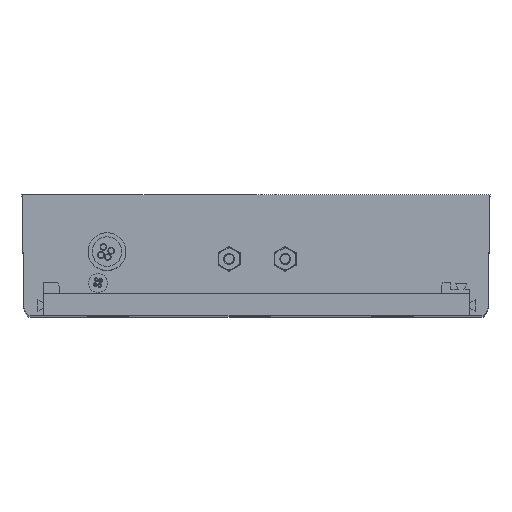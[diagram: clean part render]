
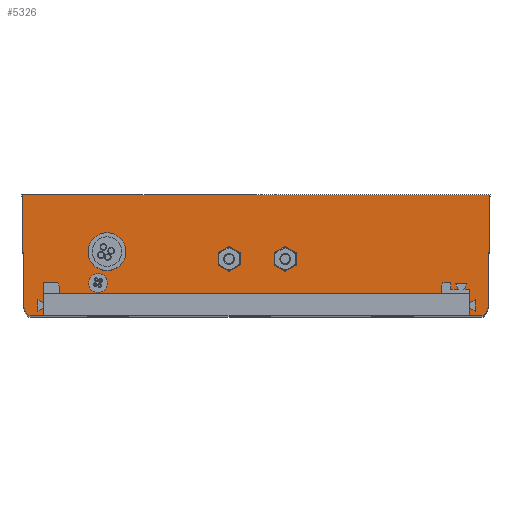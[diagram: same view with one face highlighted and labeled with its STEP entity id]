
A CAD part, top view. The second image highlights one B-rep face of the part: STEP entity #5326.
In plain terms, the highlighted planar face has unit normal (0, 0, 1).
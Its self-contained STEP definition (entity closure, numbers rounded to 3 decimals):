
#283 = ORIENTED_EDGE ( 'NONE', *, *, #11728, .F. ) ;
#535 = CARTESIAN_POINT ( 'NONE',  ( 98.608, -1.721, 0. ) ) ;
#923 = DIRECTION ( 'NONE',  ( 0., 0., 1. ) ) ;
#926 = CARTESIAN_POINT ( 'NONE',  ( -20.425, -14.637, 0. ) ) ;
#1029 = VERTEX_POINT ( 'NONE', #926 ) ;
#1085 = VERTEX_POINT ( 'NONE', #8890 ) ;
#1108 = DIRECTION ( 'NONE',  ( -0.017, 1., 0. ) ) ;
#1127 = EDGE_LOOP ( 'NONE', ( #1537, #11254 ) ) ;
#1208 = CARTESIAN_POINT ( 'NONE',  ( 93.475, -15.137, 0. ) ) ;
#1259 = CARTESIAN_POINT ( 'NONE',  ( 41.225, 0.563, 0. ) ) ;
#1301 = VECTOR ( 'NONE', #1108, 1000. ) ;
#1309 = EDGE_CURVE ( 'NONE', #4970, #5088, #7175, .T. ) ;
#1357 = DIRECTION ( 'NONE',  ( 1., 0., 0. ) ) ;
#1408 = DIRECTION ( 'NONE',  ( 0., -1., 0. ) ) ;
#1456 = CARTESIAN_POINT ( 'NONE',  ( -20.425, -15.137, 0. ) ) ;
#1537 = ORIENTED_EDGE ( 'NONE', *, *, #9037, .F. ) ;
#1540 = AXIS2_PLACEMENT_3D ( 'NONE', #4208, #4023, #13872 ) ;
#1547 = EDGE_CURVE ( 'NONE', #7200, #1085, #3752, .T. ) ;
#1784 = CARTESIAN_POINT ( 'NONE',  ( 44.175, 0.563, 0. ) ) ;
#1805 = EDGE_CURVE ( 'NONE', #7238, #11914, #8384, .T. ) ;
#1838 = VERTEX_POINT ( 'NONE', #4761 ) ;
#1993 = EDGE_LOOP ( 'NONE', ( #3302, #7373 ) ) ;
#2025 = EDGE_CURVE ( 'NONE', #5088, #7238, #3392, .T. ) ;
#2044 = CARTESIAN_POINT ( 'NONE',  ( -24.335, -14.637, 0. ) ) ;
#2080 = ORIENTED_EDGE ( 'NONE', *, *, #1309, .T. ) ;
#2113 = VECTOR ( 'NONE', #1357, 1000. ) ;
#2239 = CIRCLE ( 'NONE', #1540, 3. ) ;
#2701 = DIRECTION ( 'NONE',  ( 1., 0., 0. ) ) ;
#2742 = DIRECTION ( 'NONE',  ( 0., 0., 1. ) ) ;
#2848 = ORIENTED_EDGE ( 'NONE', *, *, #6899, .T. ) ;
#3203 = DIRECTION ( 'NONE',  ( 0., 0., 1. ) ) ;
#3254 = CARTESIAN_POINT ( 'NONE',  ( 26.225, 0.563, 0. ) ) ;
#3302 = ORIENTED_EDGE ( 'NONE', *, *, #5643, .F. ) ;
#3369 = ORIENTED_EDGE ( 'NONE', *, *, #7343, .F. ) ;
#3392 = LINE ( 'NONE', #535, #10779 ) ;
#3439 = EDGE_CURVE ( 'NONE', #1838, #4970, #12124, .T. ) ;
#3484 = CIRCLE ( 'NONE', #14180, 2.95 ) ;
#3542 = DIRECTION ( 'NONE',  ( 0., 0., 1. ) ) ;
#3614 = ORIENTED_EDGE ( 'NONE', *, *, #3439, .T. ) ;
#3629 = CARTESIAN_POINT ( 'NONE',  ( 0., -14.637, 0. ) ) ;
#3695 = CARTESIAN_POINT ( 'NONE',  ( -25.676, -12.19, 0. ) ) ;
#3752 = CIRCLE ( 'NONE', #8056, 2.95 ) ;
#4023 = DIRECTION ( 'NONE',  ( 0., 0., 1. ) ) ;
#4125 = CIRCLE ( 'NONE', #7939, 2.95 ) ;
#4208 = CARTESIAN_POINT ( 'NONE',  ( -22.676, -12.137, 0. ) ) ;
#4514 = DIRECTION ( 'NONE',  ( 0., 1., 0. ) ) ;
#4609 = CARTESIAN_POINT ( 'NONE',  ( -25.325, 17.763, 0. ) ) ;
#4614 = CARTESIAN_POINT ( 'NONE',  ( -20.425, -8.787, 0. ) ) ;
#4761 = CARTESIAN_POINT ( 'NONE',  ( 93.475, -14.637, 0. ) ) ;
#4957 = VERTEX_POINT ( 'NONE', #3695 ) ;
#4970 = VERTEX_POINT ( 'NONE', #5827 ) ;
#5061 = LINE ( 'NONE', #3629, #2113 ) ;
#5088 = VERTEX_POINT ( 'NONE', #7216 ) ;
#5326 = ADVANCED_FACE ( 'NONE', ( #8657, #9183, #12941 ), #9946, .T. ) ;
#5643 = EDGE_CURVE ( 'NONE', #1085, #7200, #3484, .T. ) ;
#5775 = DIRECTION ( 'NONE',  ( -1., 0., 0. ) ) ;
#5779 = VECTOR ( 'NONE', #10664, 1000. ) ;
#5827 = CARTESIAN_POINT ( 'NONE',  ( 97.084, -14.637, 0. ) ) ;
#6146 = VECTOR ( 'NONE', #12280, 1000. ) ;
#6368 = DIRECTION ( 'NONE',  ( 1., 0., 0. ) ) ;
#6374 = CARTESIAN_POINT ( 'NONE',  ( 0., -14.637, 0. ) ) ;
#6553 = DIRECTION ( 'NONE',  ( 1., 0., 0. ) ) ;
#6899 = EDGE_CURVE ( 'NONE', #4957, #10117, #2239, .T. ) ;
#6938 = CARTESIAN_POINT ( 'NONE',  ( 29.175, 0.563, 0. ) ) ;
#7071 = CARTESIAN_POINT ( 'NONE',  ( 98.948, 17.763, 0. ) ) ;
#7173 = EDGE_CURVE ( 'NONE', #1838, #12385, #9291, .T. ) ;
#7175 = CIRCLE ( 'NONE', #10078, 3. ) ;
#7193 = VECTOR ( 'NONE', #1408, 1000. ) ;
#7200 = VERTEX_POINT ( 'NONE', #1259 ) ;
#7216 = CARTESIAN_POINT ( 'NONE',  ( 98.425, -12.19, 0. ) ) ;
#7238 = VERTEX_POINT ( 'NONE', #7071 ) ;
#7343 = EDGE_CURVE ( 'NONE', #10335, #1029, #10161, .T. ) ;
#7373 = ORIENTED_EDGE ( 'NONE', *, *, #1547, .F. ) ;
#7737 = VECTOR ( 'NONE', #4514, 1000. ) ;
#7873 = CARTESIAN_POINT ( 'NONE',  ( 93.475, -8.787, 0. ) ) ;
#7939 = AXIS2_PLACEMENT_3D ( 'NONE', #11186, #3542, #10142 ) ;
#8056 = AXIS2_PLACEMENT_3D ( 'NONE', #1784, #923, #6368 ) ;
#8199 = CARTESIAN_POINT ( 'NONE',  ( 32.125, 0.563, 0. ) ) ;
#8384 = LINE ( 'NONE', #4609, #6146 ) ;
#8533 = ORIENTED_EDGE ( 'NONE', *, *, #1805, .T. ) ;
#8657 = FACE_BOUND ( 'NONE', #1127, .T. ) ;
#8729 = CIRCLE ( 'NONE', #9441, 2.95 ) ;
#8734 = CARTESIAN_POINT ( 'NONE',  ( 0., 0., 0. ) ) ;
#8811 = ORIENTED_EDGE ( 'NONE', *, *, #2025, .T. ) ;
#8890 = CARTESIAN_POINT ( 'NONE',  ( 47.125, 0.563, 0. ) ) ;
#8985 = VERTEX_POINT ( 'NONE', #3254 ) ;
#9037 = EDGE_CURVE ( 'NONE', #9148, #8985, #4125, .T. ) ;
#9050 = EDGE_CURVE ( 'NONE', #12385, #10335, #11851, .T. ) ;
#9114 = AXIS2_PLACEMENT_3D ( 'NONE', #8734, #10889, #6553 ) ;
#9148 = VERTEX_POINT ( 'NONE', #8199 ) ;
#9159 = CARTESIAN_POINT ( 'NONE',  ( -26.199, 17.763, 0. ) ) ;
#9183 = FACE_BOUND ( 'NONE', #1993, .T. ) ;
#9291 = LINE ( 'NONE', #1208, #7737 ) ;
#9299 = DIRECTION ( 'NONE',  ( 1., 0., 0. ) ) ;
#9343 = CARTESIAN_POINT ( 'NONE',  ( 44.175, 0.563, 0. ) ) ;
#9441 = AXIS2_PLACEMENT_3D ( 'NONE', #6938, #13808, #2701 ) ;
#9756 = ORIENTED_EDGE ( 'NONE', *, *, #13054, .T. ) ;
#9887 = CARTESIAN_POINT ( 'NONE',  ( -25.735, -8.787, 0. ) ) ;
#9946 = PLANE ( 'NONE',  #9114 ) ;
#10078 = AXIS2_PLACEMENT_3D ( 'NONE', #14293, #3203, #13215 ) ;
#10104 = LINE ( 'NONE', #9887, #1301 ) ;
#10117 = VERTEX_POINT ( 'NONE', #2044 ) ;
#10142 = DIRECTION ( 'NONE',  ( 1., 0., 0. ) ) ;
#10161 = LINE ( 'NONE', #1456, #7193 ) ;
#10335 = VERTEX_POINT ( 'NONE', #10538 ) ;
#10538 = CARTESIAN_POINT ( 'NONE',  ( -20.425, -8.787, 0. ) ) ;
#10664 = DIRECTION ( 'NONE',  ( 1., 0., 0. ) ) ;
#10779 = VECTOR ( 'NONE', #11649, 1000. ) ;
#10785 = ORIENTED_EDGE ( 'NONE', *, *, #7173, .F. ) ;
#10889 = DIRECTION ( 'NONE',  ( 0., 0., 1. ) ) ;
#11186 = CARTESIAN_POINT ( 'NONE',  ( 29.175, 0.563, 0. ) ) ;
#11254 = ORIENTED_EDGE ( 'NONE', *, *, #11369, .F. ) ;
#11369 = EDGE_CURVE ( 'NONE', #8985, #9148, #8729, .T. ) ;
#11649 = DIRECTION ( 'NONE',  ( 0.017, 1., 0. ) ) ;
#11728 = EDGE_CURVE ( 'NONE', #4957, #11914, #10104, .T. ) ;
#11851 = LINE ( 'NONE', #4614, #13251 ) ;
#11914 = VERTEX_POINT ( 'NONE', #9159 ) ;
#12124 = LINE ( 'NONE', #6374, #5779 ) ;
#12280 = DIRECTION ( 'NONE',  ( -1., 0., 0. ) ) ;
#12385 = VERTEX_POINT ( 'NONE', #7873 ) ;
#12878 = ORIENTED_EDGE ( 'NONE', *, *, #9050, .F. ) ;
#12941 = FACE_OUTER_BOUND ( 'NONE', #13263, .T. ) ;
#13054 = EDGE_CURVE ( 'NONE', #10117, #1029, #5061, .T. ) ;
#13215 = DIRECTION ( 'NONE',  ( 1., 0., 0. ) ) ;
#13251 = VECTOR ( 'NONE', #5775, 1000. ) ;
#13263 = EDGE_LOOP ( 'NONE', ( #2848, #9756, #3369, #12878, #10785, #3614, #2080, #8811, #8533, #283 ) ) ;
#13808 = DIRECTION ( 'NONE',  ( 0., 0., 1. ) ) ;
#13872 = DIRECTION ( 'NONE',  ( 1., 0., 0. ) ) ;
#14180 = AXIS2_PLACEMENT_3D ( 'NONE', #9343, #2742, #9299 ) ;
#14293 = CARTESIAN_POINT ( 'NONE',  ( 95.426, -12.137, 0. ) ) ;
